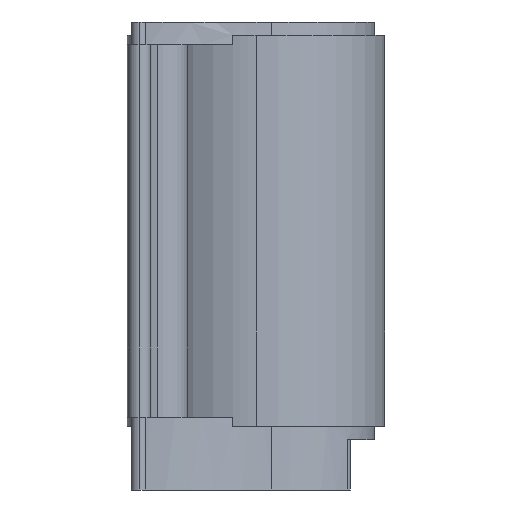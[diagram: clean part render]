
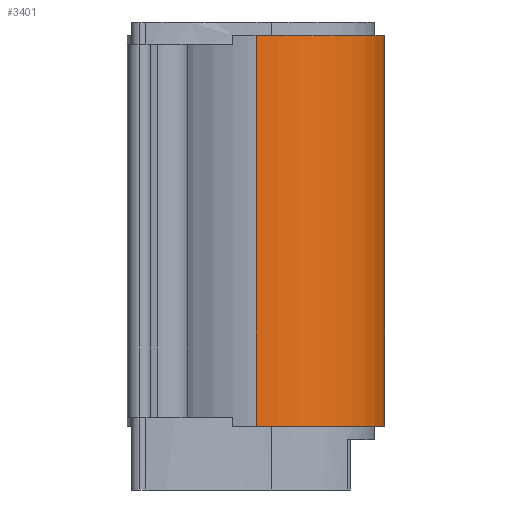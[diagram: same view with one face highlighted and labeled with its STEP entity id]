
A CAD part, left-side view. The second image highlights one B-rep face of the part: STEP entity #3401.
In plain terms, the highlighted cylindrical face has radius 64 mm (diameter 128 mm), a partial arc.
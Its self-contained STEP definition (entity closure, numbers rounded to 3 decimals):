
#460 = AXIS2_PLACEMENT_3D ( 'NONE', #1165, #1184, #1178 ) ;
#523 = AXIS2_PLACEMENT_3D ( 'NONE', #3174, #3173, #3171 ) ;
#524 = AXIS2_PLACEMENT_3D ( 'NONE', #3183, #3180, #3179 ) ;
#652 = EDGE_CURVE ( 'NONE', #1208, #1205, #2385, .T. ) ;
#653 = EDGE_CURVE ( 'NONE', #1208, #1294, #2389, .T. ) ;
#654 = EDGE_CURVE ( 'NONE', #1294, #1295, #2383, .T. ) ;
#656 = EDGE_CURVE ( 'NONE', #1205, #1295, #2378, .T. ) ;
#1165 = CARTESIAN_POINT ( 'NONE',  ( 64., -22., 103.7 ) ) ;
#1178 = DIRECTION ( 'NONE',  ( -1., 0., 0. ) ) ;
#1184 = DIRECTION ( 'NONE',  ( 0., 0., -1. ) ) ;
#1205 = VERTEX_POINT ( 'NONE', #1813 ) ;
#1208 = VERTEX_POINT ( 'NONE', #1807 ) ;
#1294 = VERTEX_POINT ( 'NONE', #1827 ) ;
#1295 = VERTEX_POINT ( 'NONE', #1826 ) ;
#1335 = EDGE_LOOP ( 'NONE', ( #1525, #1526, #1527, #1528 ) ) ;
#1525 = ORIENTED_EDGE ( 'NONE', *, *, #652, .F. ) ;
#1526 = ORIENTED_EDGE ( 'NONE', *, *, #653, .T. ) ;
#1527 = ORIENTED_EDGE ( 'NONE', *, *, #654, .T. ) ;
#1528 = ORIENTED_EDGE ( 'NONE', *, *, #656, .F. ) ;
#1807 = CARTESIAN_POINT ( 'NONE',  ( 0., -22., 97. ) ) ;
#1813 = CARTESIAN_POINT ( 'NONE',  ( 100.527, -74.553, 97. ) ) ;
#1826 = CARTESIAN_POINT ( 'NONE',  ( 100.527, -74.553, -97. ) ) ;
#1827 = CARTESIAN_POINT ( 'NONE',  ( 0., -22., -97. ) ) ;
#2205 = CYLINDRICAL_SURFACE ( 'NONE', #460, 64. ) ;
#2208 = FACE_OUTER_BOUND ( 'NONE', #1335, .T. ) ;
#2376 = VECTOR ( 'NONE', #3175, 1000. ) ;
#2378 = LINE ( 'NONE', #3176, #2376 ) ;
#2380 = VECTOR ( 'NONE', #3189, 1000. ) ;
#2383 = CIRCLE ( 'NONE', #523, 64. ) ;
#2385 = CIRCLE ( 'NONE', #524, 64. ) ;
#2389 = LINE ( 'NONE', #3184, #2380 ) ;
#3171 = DIRECTION ( 'NONE',  ( 1., 0., 0. ) ) ;
#3173 = DIRECTION ( 'NONE',  ( 0., 0., 1. ) ) ;
#3174 = CARTESIAN_POINT ( 'NONE',  ( 64., -22., -97. ) ) ;
#3175 = DIRECTION ( 'NONE',  ( 0., 0., -1. ) ) ;
#3176 = CARTESIAN_POINT ( 'NONE',  ( 100.527, -74.553, 103.7 ) ) ;
#3179 = DIRECTION ( 'NONE',  ( 1., 0., 0. ) ) ;
#3180 = DIRECTION ( 'NONE',  ( 0., 0., 1. ) ) ;
#3183 = CARTESIAN_POINT ( 'NONE',  ( 64., -22., 97. ) ) ;
#3184 = CARTESIAN_POINT ( 'NONE',  ( 0., -22., 103.7 ) ) ;
#3189 = DIRECTION ( 'NONE',  ( 0., 0., -1. ) ) ;
#3401 = ADVANCED_FACE ( 'NONE', ( #2208 ), #2205, .T. ) ;
